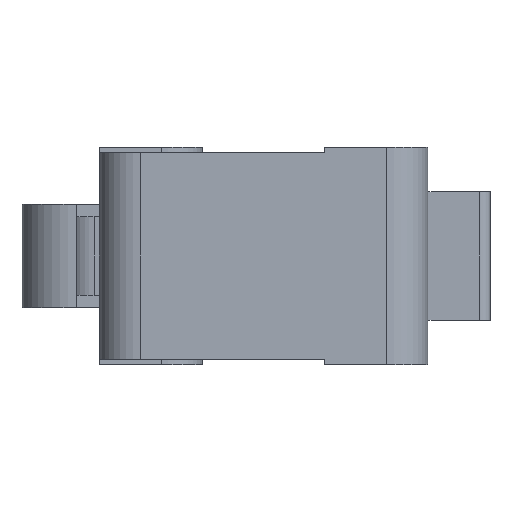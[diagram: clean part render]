
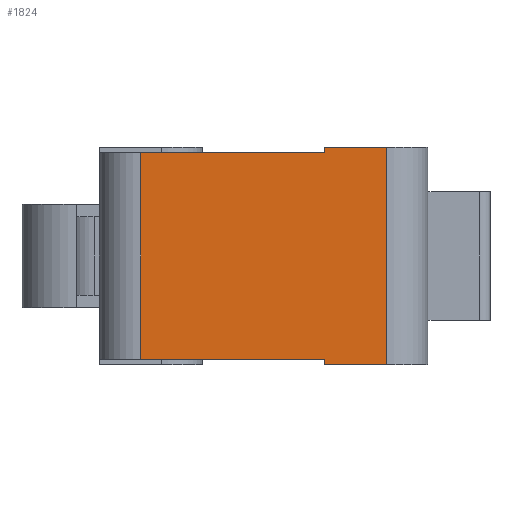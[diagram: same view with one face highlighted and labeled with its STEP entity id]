
A CAD part, left-side view. The second image highlights one B-rep face of the part: STEP entity #1824.
In plain terms, the highlighted planar face has unit normal (-1, 0, 0).
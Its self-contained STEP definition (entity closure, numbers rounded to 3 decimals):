
#243=FACE_OUTER_BOUND('',#357,.T.);
#357=EDGE_LOOP('',(#1579,#1580,#1581,#1582,#1583,#1584,#1585,#1586));
#516=LINE('',#2822,#713);
#519=LINE('',#2828,#716);
#530=LINE('',#2864,#727);
#533=LINE('',#2872,#730);
#546=LINE('',#2907,#743);
#548=LINE('',#2911,#745);
#549=LINE('',#2914,#746);
#550=LINE('',#2915,#747);
#713=VECTOR('',#2301,0.25);
#716=VECTOR('',#2308,3.);
#727=VECTOR('',#2341,3.);
#730=VECTOR('',#2350,0.25);
#743=VECTOR('',#2387,8.9);
#745=VECTOR('',#2393,10.5);
#746=VECTOR('',#2396,8.9);
#747=VECTOR('',#2397,10.);
#890=VERTEX_POINT('',#2819);
#891=VERTEX_POINT('',#2821);
#892=VERTEX_POINT('',#2826);
#905=VERTEX_POINT('',#2861);
#906=VERTEX_POINT('',#2863);
#908=VERTEX_POINT('',#2870);
#918=VERTEX_POINT('',#2906);
#919=VERTEX_POINT('',#2913);
#1104=EDGE_CURVE('',#891,#890,#516,.T.);
#1108=EDGE_CURVE('',#890,#892,#519,.T.);
#1125=EDGE_CURVE('',#905,#906,#530,.T.);
#1130=EDGE_CURVE('',#908,#905,#533,.T.);
#1148=EDGE_CURVE('',#891,#918,#546,.T.);
#1151=EDGE_CURVE('',#906,#892,#548,.T.);
#1152=EDGE_CURVE('',#919,#908,#549,.T.);
#1153=EDGE_CURVE('',#918,#919,#550,.T.);
#1579=ORIENTED_EDGE('',*,*,#1151,.F.);
#1580=ORIENTED_EDGE('',*,*,#1125,.F.);
#1581=ORIENTED_EDGE('',*,*,#1130,.F.);
#1582=ORIENTED_EDGE('',*,*,#1152,.F.);
#1583=ORIENTED_EDGE('',*,*,#1153,.F.);
#1584=ORIENTED_EDGE('',*,*,#1148,.F.);
#1585=ORIENTED_EDGE('',*,*,#1104,.T.);
#1586=ORIENTED_EDGE('',*,*,#1108,.T.);
#1736=PLANE('',#1962);
#1824=ADVANCED_FACE('',(#243),#1736,.T.);
#1962=AXIS2_PLACEMENT_3D('',#2912,#2394,#2395);
#2301=DIRECTION('',(0.,0.,-1.));
#2308=DIRECTION('',(0.,-1.,0.));
#2341=DIRECTION('',(0.,-1.,0.));
#2350=DIRECTION('',(0.,0.,1.));
#2387=DIRECTION('',(0.,1.,0.));
#2393=DIRECTION('',(0.,0.,-1.));
#2394=DIRECTION('center_axis',(-1.,0.,0.));
#2395=DIRECTION('ref_axis',(0.,-1.,0.));
#2396=DIRECTION('',(0.,-1.,0.));
#2397=DIRECTION('',(0.,0.,1.));
#2819=CARTESIAN_POINT('',(-13.9,-2.95,-5.25));
#2821=CARTESIAN_POINT('',(-13.9,-2.95,-5.));
#2822=CARTESIAN_POINT('',(-13.9,-2.95,-5.));
#2826=CARTESIAN_POINT('',(-13.9,-5.95,-5.25));
#2828=CARTESIAN_POINT('',(-13.9,-2.95,-5.25));
#2861=CARTESIAN_POINT('',(-13.9,-2.95,5.25));
#2863=CARTESIAN_POINT('',(-13.9,-5.95,5.25));
#2864=CARTESIAN_POINT('',(-13.9,-2.95,5.25));
#2870=CARTESIAN_POINT('',(-13.9,-2.95,5.));
#2872=CARTESIAN_POINT('',(-13.9,-2.95,5.));
#2906=CARTESIAN_POINT('',(-13.9,5.95,-5.));
#2907=CARTESIAN_POINT('',(-13.9,-7.95,-5.));
#2911=CARTESIAN_POINT('',(-13.9,-5.95,0.));
#2912=CARTESIAN_POINT('Origin',(-13.9,7.95,0.));
#2913=CARTESIAN_POINT('',(-13.9,5.95,5.));
#2914=CARTESIAN_POINT('',(-13.9,-7.95,5.));
#2915=CARTESIAN_POINT('',(-13.9,5.95,0.));
